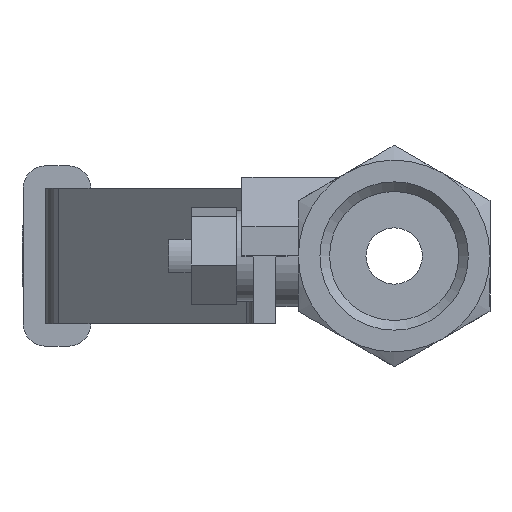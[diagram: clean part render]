
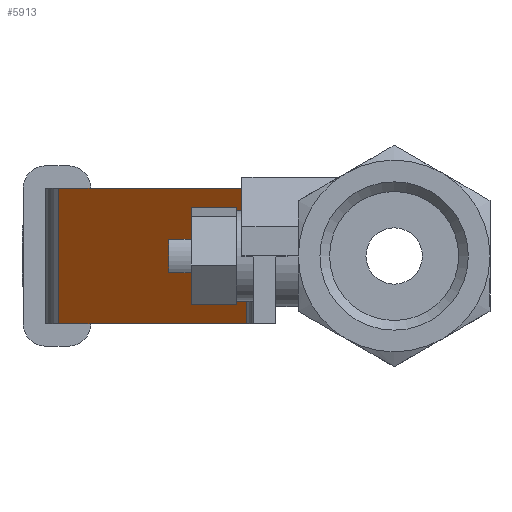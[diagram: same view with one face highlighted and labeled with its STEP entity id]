
A CAD part, left-side view. The second image highlights one B-rep face of the part: STEP entity #5913.
In plain terms, the highlighted planar face has unit normal (-0.707, 0.707, 0).
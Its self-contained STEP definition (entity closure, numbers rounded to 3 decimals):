
#141=PLANE('',#6272);
#390=FACE_OUTER_BOUND('',#715,.T.);
#715=EDGE_LOOP('',(#3908,#3909,#3910,#3911));
#1065=LINE('',#8281,#1707);
#1083=LINE('',#8330,#1725);
#1087=LINE('',#8341,#1729);
#1088=LINE('',#8343,#1730);
#1707=VECTOR('',#6724,10.);
#1725=VECTOR('',#6766,10.);
#1729=VECTOR('',#6776,10.);
#1730=VECTOR('',#6779,10.);
#2483=VERTEX_POINT('',#8274);
#2486=VERTEX_POINT('',#8279);
#2505=VERTEX_POINT('',#8329);
#2508=VERTEX_POINT('',#8337);
#3030=EDGE_CURVE('',#2486,#2483,#1065,.T.);
#3054=EDGE_CURVE('',#2505,#2483,#1083,.T.);
#3060=EDGE_CURVE('',#2505,#2508,#1087,.T.);
#3061=EDGE_CURVE('',#2486,#2508,#1088,.T.);
#3908=ORIENTED_EDGE('',*,*,#3030,.F.);
#3909=ORIENTED_EDGE('',*,*,#3061,.T.);
#3910=ORIENTED_EDGE('',*,*,#3060,.F.);
#3911=ORIENTED_EDGE('',*,*,#3054,.T.);
#5913=ADVANCED_FACE('',(#390),#141,.T.);
#6272=AXIS2_PLACEMENT_3D('',#8342,#6777,#6778);
#6724=DIRECTION('',(0.,0.,-1.));
#6766=DIRECTION('',(-0.707,-0.707,0.));
#6776=DIRECTION('',(0.,0.,1.));
#6777=DIRECTION('center_axis',(-0.707,0.707,0.));
#6778=DIRECTION('ref_axis',(0.,0.,
1.));
#6779=DIRECTION('',(0.707,0.707,0.));
#8274=CARTESIAN_POINT('',(-17.648,5.357,-6.));
#8279=CARTESIAN_POINT('',(-17.648,5.357,6.));
#8281=CARTESIAN_POINT('',(-17.648,5.357,0.));
#8329=CARTESIAN_POINT('',(-1.006,21.999,-6.));
#8330=CARTESIAN_POINT('',(0.166,23.171,-6.));
#8337=CARTESIAN_POINT('',(-1.006,21.999,6.));
#8341=CARTESIAN_POINT('',(-1.006,21.999,0.));
#8342=CARTESIAN_POINT('Origin',(-18.234,4.771,0.));
#8343=CARTESIAN_POINT('',(0.166,23.171,6.));
